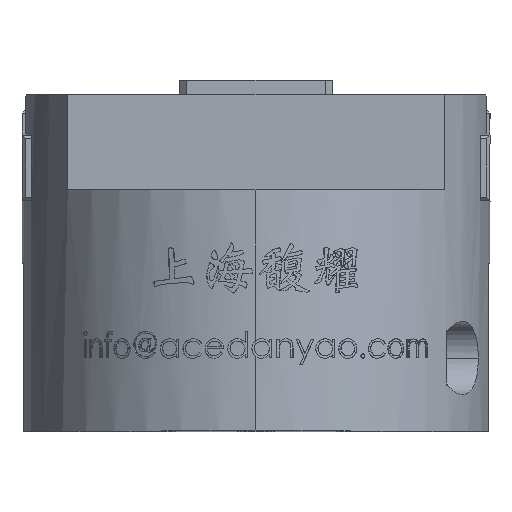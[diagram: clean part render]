
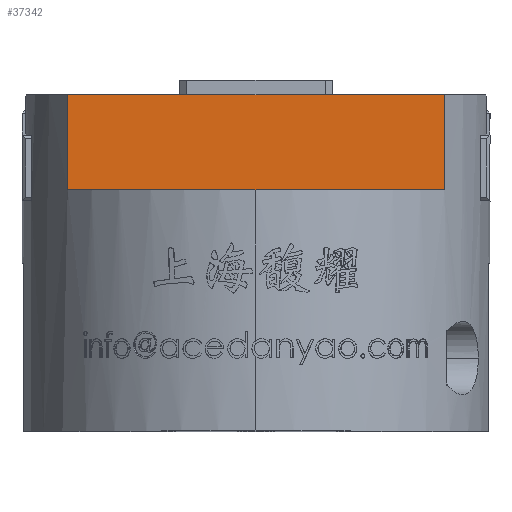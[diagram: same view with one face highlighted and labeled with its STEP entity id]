
A CAD part, top view. The second image highlights one B-rep face of the part: STEP entity #37342.
In plain terms, the highlighted planar face has unit normal (0, 0, 1).
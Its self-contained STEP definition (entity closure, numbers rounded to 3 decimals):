
#1305 = VERTEX_POINT ( 'NONE', #34851 ) ;
#1407 = VECTOR ( 'NONE', #46401, 1000. ) ;
#2987 = CARTESIAN_POINT ( 'NONE',  ( 0., 46., 19. ) ) ;
#5445 = VERTEX_POINT ( 'NONE', #11869 ) ;
#8645 = LINE ( 'NONE', #39085, #75076 ) ;
#11869 = CARTESIAN_POINT ( 'NONE',  ( 25.749, 33., 19. ) ) ;
#14370 = VECTOR ( 'NONE', #42762, 1000. ) ;
#16121 = FACE_OUTER_BOUND ( 'NONE', #34280, .T. ) ;
#16441 = LINE ( 'NONE', #2987, #14370 ) ;
#16530 = EDGE_CURVE ( 'NONE', #63048, #1305, #16441, .T. ) ;
#17386 = PLANE ( 'NONE',  #81786 ) ;
#17724 = EDGE_CURVE ( 'NONE', #1305, #5445, #74536, .T. ) ;
#19071 = DIRECTION ( 'NONE',  ( 0., 1., 0. ) ) ;
#24046 = DIRECTION ( 'NONE',  ( 0., 0., -1. ) ) ;
#26451 = CARTESIAN_POINT ( 'NONE',  ( 25.749, 46., 19. ) ) ;
#31141 = CARTESIAN_POINT ( 'NONE',  ( -25.749, 33., 19. ) ) ;
#34280 = EDGE_LOOP ( 'NONE', ( #46629, #64204, #50541, #85568 ) ) ;
#34304 = VERTEX_POINT ( 'NONE', #51710 ) ;
#34851 = CARTESIAN_POINT ( 'NONE',  ( 25.749, 46., 19. ) ) ;
#37342 = ADVANCED_FACE ( 'NONE', ( #16121 ), #17386, .F. ) ;
#39085 = CARTESIAN_POINT ( 'NONE',  ( -25.749, 46., 19. ) ) ;
#42762 = DIRECTION ( 'NONE',  ( 1., 0., 0. ) ) ;
#44749 = CARTESIAN_POINT ( 'NONE',  ( -25.749, 46., 19. ) ) ;
#46401 = DIRECTION ( 'NONE',  ( -1., 0., 0. ) ) ;
#46629 = ORIENTED_EDGE ( 'NONE', *, *, #47180, .F. ) ;
#47180 = EDGE_CURVE ( 'NONE', #34304, #63048, #8645, .T. ) ;
#50541 = ORIENTED_EDGE ( 'NONE', *, *, #17724, .F. ) ;
#51710 = CARTESIAN_POINT ( 'NONE',  ( -25.749, 33., 19. ) ) ;
#54334 = LINE ( 'NONE', #66107, #1407 ) ;
#56873 = VECTOR ( 'NONE', #79524, 1000. ) ;
#61373 = EDGE_CURVE ( 'NONE', #5445, #34304, #54334, .T. ) ;
#63048 = VERTEX_POINT ( 'NONE', #44749 ) ;
#64204 = ORIENTED_EDGE ( 'NONE', *, *, #61373, .F. ) ;
#66107 = CARTESIAN_POINT ( 'NONE',  ( -25.749, 33., 19. ) ) ;
#70473 = DIRECTION ( 'NONE',  ( -1., 0., 0. ) ) ;
#74536 = LINE ( 'NONE', #26451, #56873 ) ;
#75076 = VECTOR ( 'NONE', #19071, 1000. ) ;
#79524 = DIRECTION ( 'NONE',  ( 0., -1., 0. ) ) ;
#81786 = AXIS2_PLACEMENT_3D ( 'NONE', #31141, #24046, #70473 ) ;
#85568 = ORIENTED_EDGE ( 'NONE', *, *, #16530, .F. ) ;
